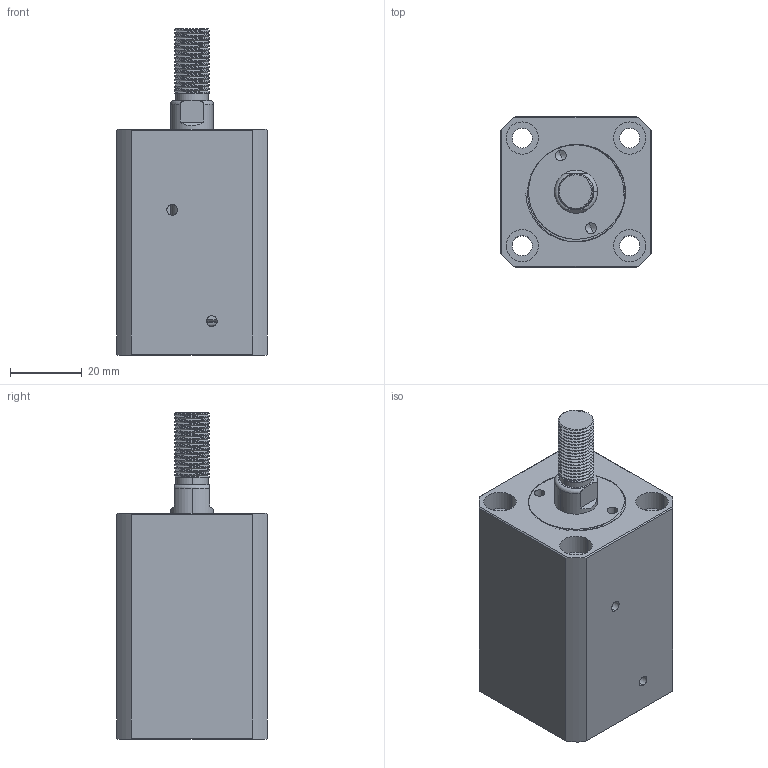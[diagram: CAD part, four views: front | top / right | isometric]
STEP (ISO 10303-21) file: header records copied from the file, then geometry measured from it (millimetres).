
FILE_DESCRIPTION (( 'STEP AP214' ), '1' );
FILE_NAME ('chtb-sdmb20x20w_asm.STEP', '2018-05-18T08:33:29', ( 'Windows' ), ( 'Microsoft' ), 'SwSTEP 2.0', 'SolidWorks 2015', '' );
FILE_SCHEMA (( 'AUTOMOTIVE_DESIGN' ));
Length unit declared in the file: millimetre
Products named in the file (4): QG_3; CHTB-SDMB20X20WHSG; CHTB-SDMB20X20NBT; chtb-sdmb20x20w_asm
Assembly tree (3 placements, depth 2):
  chtb-sdmb20x20w_asm
    CHTB-SDMB20X20NBT
    CHTB-SDMB20X20WHSG
    QG_3
Bounding box: 42 x 42 x 91 mm (x, y, z)
Volume: 97755.5 mm3; surface area: 31698.8 mm2
Topology: 3 solids, 3 shells, 243 faces, 660 edges, 439 vertices
Faces by surface type: cylinder 143, plane 47, torus 25, bspline 23, cone 5
Entity records: 14768 total; most frequent: CARTESIAN_POINT 8984, ORIENTED_EDGE 1312, DIRECTION 1058, EDGE_CURVE 656, VERTEX_POINT 439, AXIS2_PLACEMENT_3D 434, EDGE_LOOP 281, ADVANCED_FACE 243
